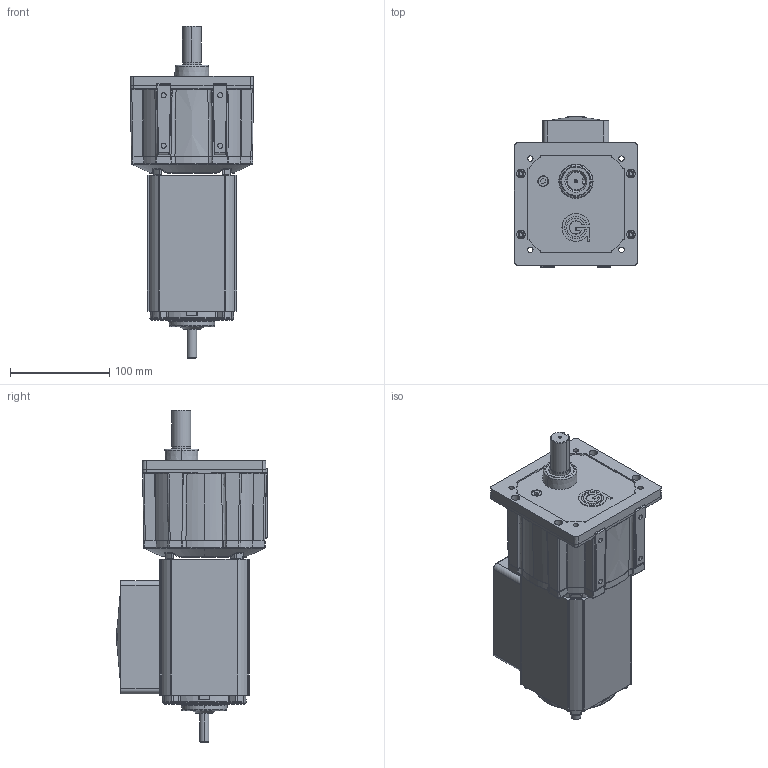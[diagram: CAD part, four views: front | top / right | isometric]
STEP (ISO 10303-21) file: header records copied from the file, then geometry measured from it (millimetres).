
FILE_DESCRIPTION (( 'STEP AP214' ), '1' );
FILE_NAME ('AC8060NV-PS2300.STEP', '2016-04-28T14:03:52', ( '' ), ( '' ), 'SwSTEP 2.0', 'SolidWorks 2015', '' );
FILE_SCHEMA (( 'AUTOMOTIVE_DESIGN' ));
Length unit declared in the file: millimetre
Products named in the file (1): AC8060NV-PS2300
Bounding box: 124.55 x 151.73 x 334.8 mm (x, y, z)
Surface area: 223602 mm2 (no closed solid volume)
Topology: 0 solids, 26 shells, 891 faces, 2723 edges, 1801 vertices
Faces by surface type: plane 256, cylinder 238, bspline 151, cone 116, torus 98, sphere 32
Entity records: 46408 total; most frequent: CARTESIAN_POINT 13568, DIRECTION 4756, ORIENTED_EDGE 4686, EDGE_CURVE 2707, AXIS2_PLACEMENT_3D 1923, VERTEX_POINT 1793, CIRCLE 1182, EDGE_LOOP 975
